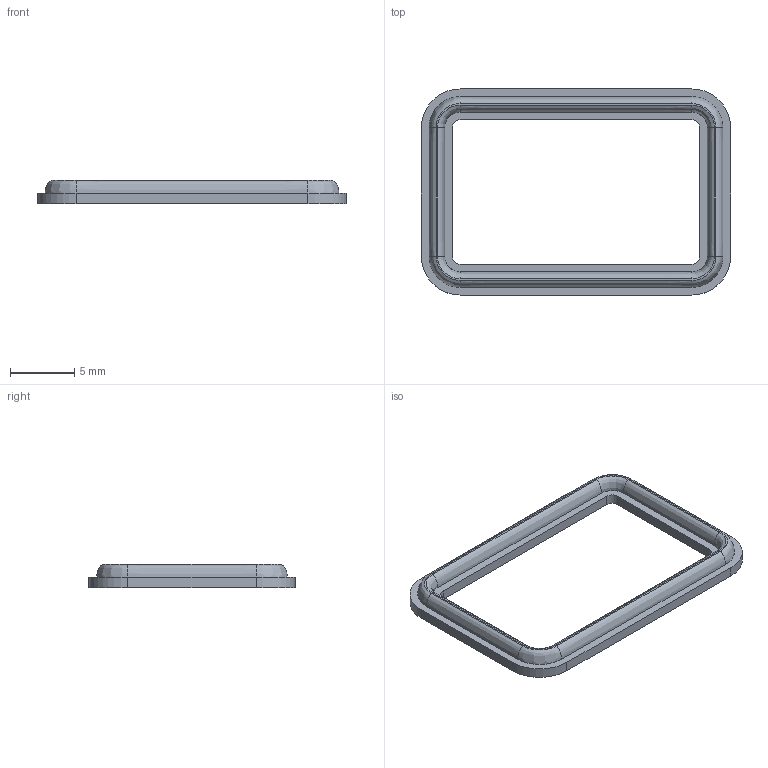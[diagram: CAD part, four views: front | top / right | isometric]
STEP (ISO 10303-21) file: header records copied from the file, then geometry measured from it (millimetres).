
FILE_DESCRIPTION(('FreeCAD Model'),'2;1');
FILE_NAME('Open CASCADE Shape Model','2026-09-29T21:58:28',('Author'),( ''),'Open CASCADE STEP processor 7.8','FreeCAD','Unknown');
FILE_SCHEMA(('AUTOMOTIVE_DESIGN { 1 0 10303 214 1 1 1 1 }'));
Length unit declared in the file: millimetre
Products named in the file (1): face_test_gasket
Bounding box: 24 x 16 x 1.8 mm (x, y, z)
Volume: 192.7 mm3; surface area: 521.9 mm2
Topology: 1 solids, 1 shells, 36 faces, 96 edges, 64 vertices
Faces by surface type: bspline 16, plane 12, cylinder 8
Entity records: 2138 total; most frequent: CARTESIAN_POINT 1381, ORIENTED_EDGE 192, DIRECTION 106, EDGE_CURVE 96, VERTEX_POINT 64, FACE_BOUND 40, EDGE_LOOP 40, AXIS2_PLACEMENT_3D 37
